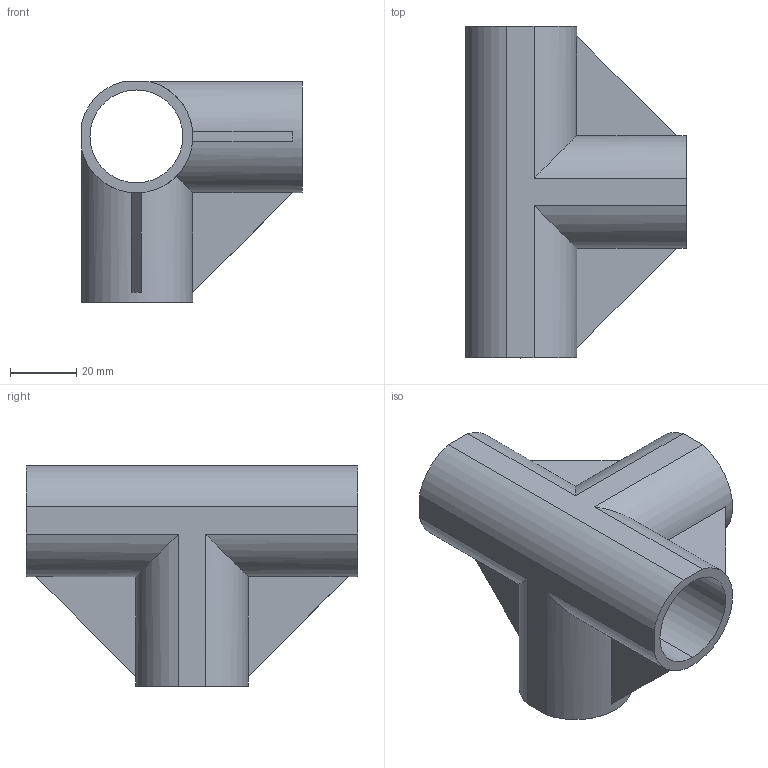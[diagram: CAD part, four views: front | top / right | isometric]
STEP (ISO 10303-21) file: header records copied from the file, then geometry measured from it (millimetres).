
FILE_DESCRIPTION (( 'STEP AP214' ), '1' );
FILE_NAME ('PJ-100B.STEP', '2023-09-12T10:58:29', ( 'catia' ), ( 'HP Inc.' ), 'SwSTEP 2.0', 'SolidWorks 2021', '' );
FILE_SCHEMA (( 'AUTOMOTIVE_DESIGN' ));
Length unit declared in the file: millimetre
Products named in the file (1): PJ-100B
Bounding box: 66.5 x 100 x 66.5 mm (x, y, z)
Volume: 62032.1 mm3; surface area: 37308 mm2
Topology: 1 solids, 1 shells, 37 faces, 99 edges, 66 vertices
Faces by surface type: plane 23, cylinder 14
Entity records: 1192 total; most frequent: CARTESIAN_POINT 272, ORIENTED_EDGE 198, DIRECTION 173, EDGE_CURVE 99, VERTEX_POINT 66, AXIS2_PLACEMENT_3D 59, LINE 55, VECTOR 55
